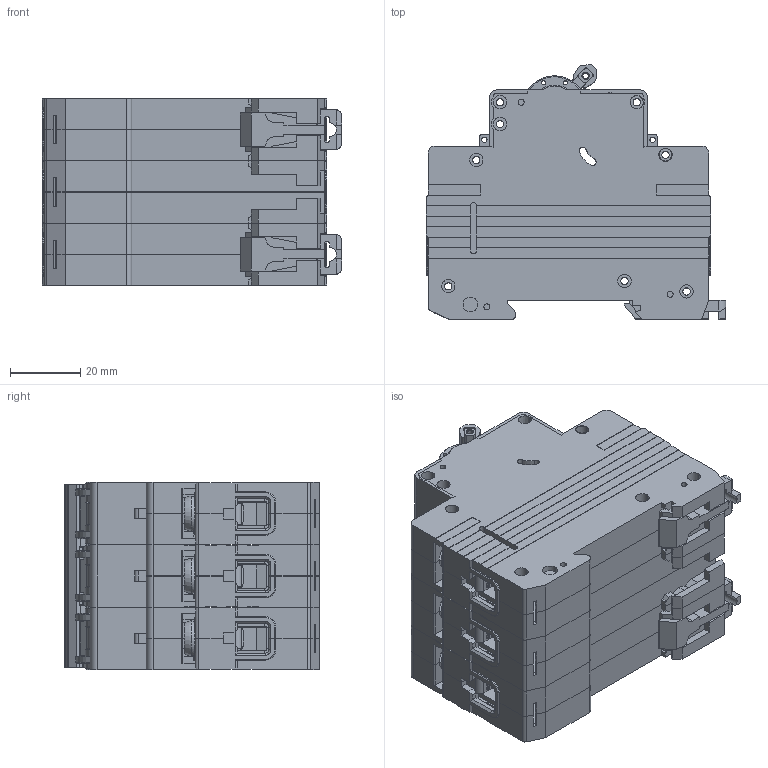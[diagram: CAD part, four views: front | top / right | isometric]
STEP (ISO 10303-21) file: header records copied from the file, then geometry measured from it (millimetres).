
FILE_DESCRIPTION (( 'STEP AP214' ), '1' );
FILE_NAME ('OptiDin 蟯63 4,5篔 - 3 瀁錌黟.STEP', '2022-11-18T07:45:15', ( '' ), ( '' ), 'SwSTEP 2.0', 'SolidWorks 2018', '' );
FILE_SCHEMA (( 'AUTOMOTIVE_DESIGN' ));
Length unit declared in the file: millimetre
Products named in the file (10): Çàù¸ëêà ÃÆÈÊ.741358.031.step; ________ ______ 041.step.STEP; ________ _____ 042.step.STEP; Ñêîáà ÃÆÈÊ.746442.004.step; OptiDin 蟯63 4,5篔 - 3 瀁錌黟; ____ ____.758151.057.step.STEP; _____ ____.745315.008.step.STEP; _____ ____.753725.004.step.STEP; _______ ____.745418.015.step.STEP; 蟯63 4,5篔.STEP_1
Assembly tree (15 placements, depth 3):
  OptiDin 蟯63 4,5篔 - 3 瀁錌黟
    蟯63 4,5篔.STEP_1  x3
      ________ ______ 041.step.STEP
      ________ _____ 042.step.STEP
      _____ ____.745315.008.step.STEP
      ____ ____.758151.057.step.STEP
      _______ ____.745418.015.step.STEP
      _____ ____.753725.004.step.STEP
    Çàù¸ëêà ÃÆÈÊ.741358.031.step  x2
    Ñêîáà ÃÆÈÊ.746442.004.step
Bounding box: 85.5 x 72.85 x 53.4 mm (x, y, z)
Volume: 88068.6 mm3; surface area: 121084.3 mm2
Topology: 30 solids, 30 shells, 4917 faces, 13343 edges, 8614 vertices
Faces by surface type: plane 3259, cylinder 1487, cone 111, torus 42, bspline 12, sphere 6
Entity records: 46473 total; most frequent: CARTESIAN_POINT 8258, ORIENTED_EDGE 7806, DIRECTION 7681, EDGE_CURVE 3903, LINE 2851, VECTOR 2851, VERTEX_POINT 2535, AXIS2_PLACEMENT_3D 2415
